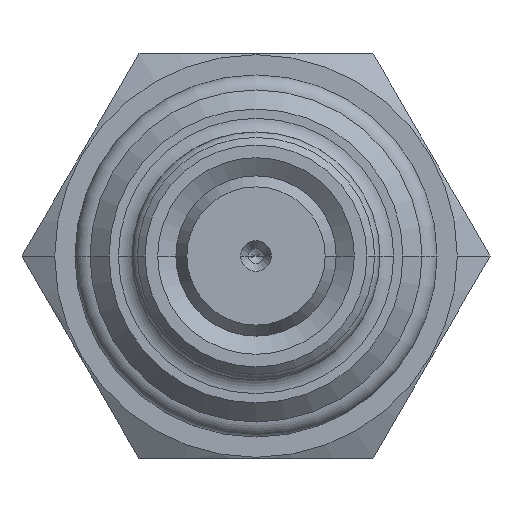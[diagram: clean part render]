
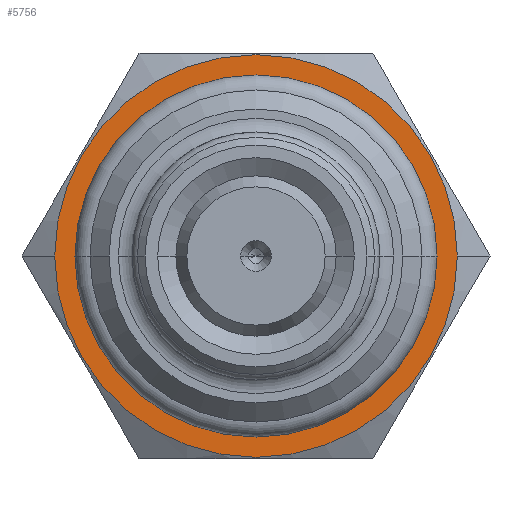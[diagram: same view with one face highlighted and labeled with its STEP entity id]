
A CAD part, front view. The second image highlights one B-rep face of the part: STEP entity #5756.
In plain terms, the highlighted planar face has unit normal (0, -1, 0).
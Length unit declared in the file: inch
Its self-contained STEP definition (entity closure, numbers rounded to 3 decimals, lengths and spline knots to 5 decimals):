
#2639=CARTESIAN_POINT('',(0.,0.,0.));
#2640=DIRECTION('',(0.,-1.,0.));
#2641=DIRECTION('',(1.,0.,0.));
#2642=AXIS2_PLACEMENT_3D('',#2639,#2640,#2641);
#2647=CARTESIAN_POINT('',(0.,0.,0.));
#2648=DIRECTION('',(0.,1.,0.));
#2649=DIRECTION('',(1.,0.,0.));
#2650=AXIS2_PLACEMENT_3D('',#2647,#2648,#2649);
#2655=CARTESIAN_POINT('',(0.,0.,0.));
#2656=DIRECTION('',(0.,1.,0.));
#2657=DIRECTION('',(1.,0.,0.));
#2658=AXIS2_PLACEMENT_3D('',#2655,#2656,#2657);
#2663=CARTESIAN_POINT('',(0.,0.,0.));
#2664=DIRECTION('',(0.,1.,0.));
#2665=DIRECTION('',(-1.,0.,0.));
#2666=AXIS2_PLACEMENT_3D('',#2663,#2664,#2665);
#4471=CARTESIAN_POINT('',(0.5275,0.,0.));
#4473=VERTEX_POINT('',#4471);
#4475=CARTESIAN_POINT('',(-0.5275,0.,0.));
#4477=VERTEX_POINT('',#4475);
#4640=CARTESIAN_POINT('',(0.43521,0.,0.));
#4641=CARTESIAN_POINT('',(-0.43521,0.,0.));
#4642=VERTEX_POINT('',#4640);
#4643=VERTEX_POINT('',#4641);
#5740=CARTESIAN_POINT('',(0.,0.,0.));
#5741=DIRECTION('',(0.,1.,0.));
#5742=DIRECTION('',(1.,0.,0.));
#5743=AXIS2_PLACEMENT_3D('',#5740,#5741,#5742);
#5744=PLANE('',#5743);
#5746=ORIENTED_EDGE('',*,*,#5745,.F.);
#5748=ORIENTED_EDGE('',*,*,#5747,.T.);
#5749=EDGE_LOOP('',(#5746,#5748));
#5750=FACE_OUTER_BOUND('',#5749,.F.);
#5751=ORIENTED_EDGE('',*,*,#5723,.F.);
#5753=ORIENTED_EDGE('',*,*,#5752,.F.);
#5754=EDGE_LOOP('',(#5751,#5753));
#5755=FACE_BOUND('',#5754,.F.);
#2643=CIRCLE('',#2642,0.5275);
#2651=CIRCLE('',#2650,0.5275);
#2659=CIRCLE('',#2658,0.43521);
#2667=CIRCLE('',#2666,0.43521);
#5723=EDGE_CURVE('',#4642,#4643,#2659,.T.);
#5745=EDGE_CURVE('',#4473,#4477,#2643,.T.);
#5747=EDGE_CURVE('',#4473,#4477,#2651,.T.);
#5752=EDGE_CURVE('',#4643,#4642,#2667,.T.);
#5756=ADVANCED_FACE('',(#5750,#5755),#5744,.F.);
